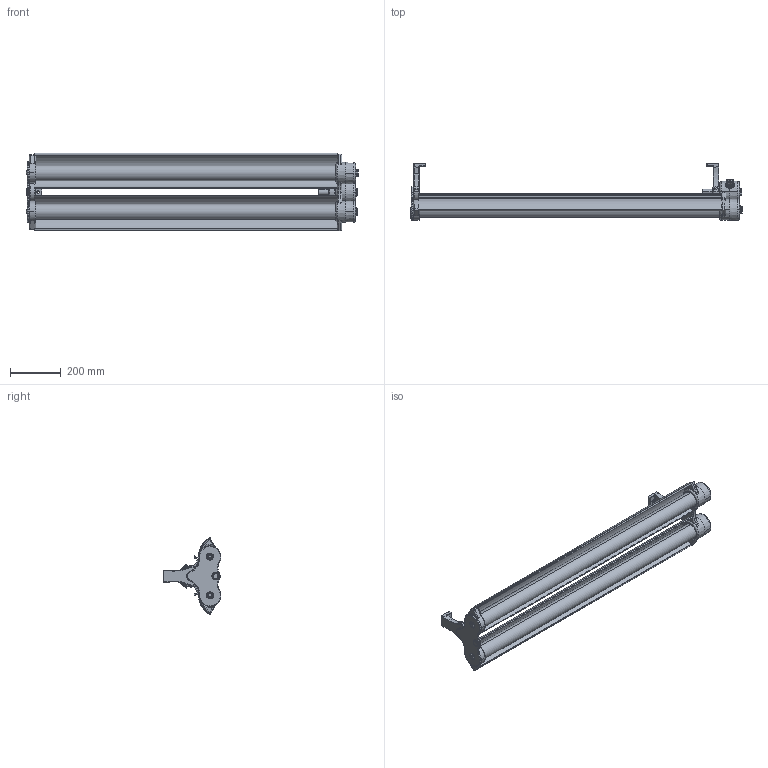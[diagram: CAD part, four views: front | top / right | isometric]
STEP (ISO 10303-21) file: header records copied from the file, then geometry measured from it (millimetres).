
FILE_DESCRIPTION (( 'STEP AP203' ), '1' );
FILE_NAME ('EPL-48-2L-LED-SFC-1227-56K.STEP', '2026-08-11T19:02:11', ( '' ), ( '' ), 'SwSTEP 2.0', 'SolidWorks 2020', '' );
FILE_SCHEMA (( 'CONFIG_CONTROL_DESIGN' ));
Length unit declared in the file: inch
Products named in the file (13): connect 1_1; EPL-48-2L-LED-SFC-1227-56K; End Support_1; quarter screw_1; connect 2_1; EPL-48-2 light no ballast; End Support_1_1_2; EPL Surface Mount; Spider End_1; End Support_1_1_3; Glass tube4ft_1; End Support_1_1; Update Reflector 4ft_1
Assembly tree (19 placements, depth 4):
  EPL-48-2L-LED-SFC-1227-56K
    EPL-48-2 light no ballast
      End Support_1
        End Support_1_1
        End Support_1_1_3
        End Support_1_1_2
      Update Reflector 4ft_1  x2
      connect 1_1  x2
      quarter screw_1  x4
      Glass tube4ft_1  x2
      connect 2_1
      Spider End_1
      EPL Surface Mount  x2
Bounding box: 1307.55 x 227.93 x 304.38 mm (x, y, z)
Volume: 10243744.1 mm3; surface area: 1712366.7 mm2
Topology: 17 solids, 17 shells, 619 faces, 1425 edges, 833 vertices
Faces by surface type: cylinder 204, plane 171, bspline 130, torus 52, cone 46, sphere 16
Entity records: 23192 total; most frequent: CARTESIAN_POINT 12925, ORIENTED_EDGE 1890, DIRECTION 1775, EDGE_CURVE 945, AXIS2_PLACEMENT_3D 750, VERTEX_POINT 562, EDGE_LOOP 439, CIRCLE 425
